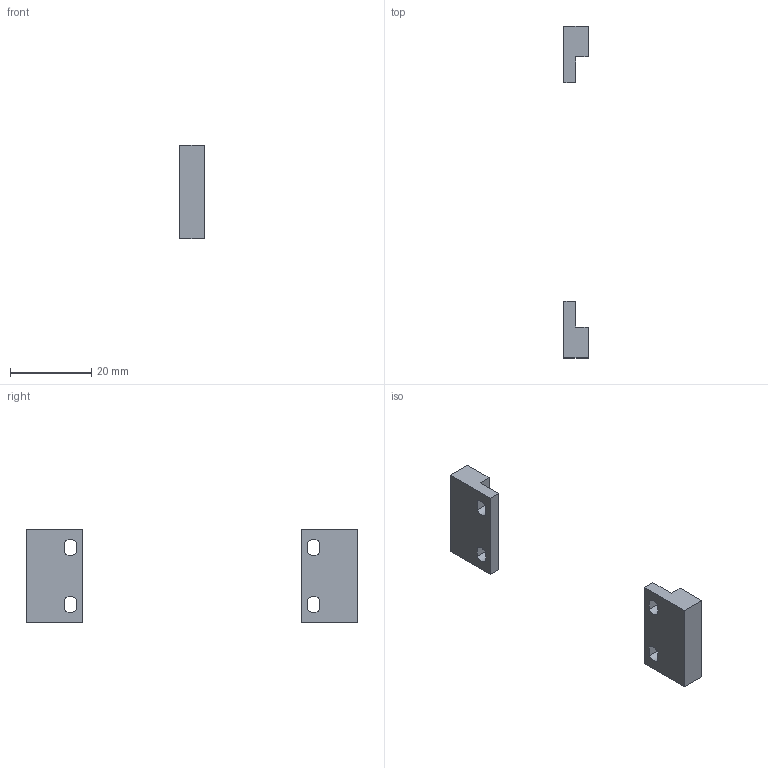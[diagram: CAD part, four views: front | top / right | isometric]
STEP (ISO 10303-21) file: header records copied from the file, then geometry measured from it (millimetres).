
FILE_DESCRIPTION(/* description */ (''),/* implementation_level */ '2;1');
FILE_NAME(/* name */ 'Y-2C79~1',/* time_stamp */ '2014-02-14T19:38:05+01:00',/* author */ (''),/* organization */ (''),/* preprocessor_version */ 'ST-DEVELOPER v14',/* originating_system */ '',/* authorisation */ '');
FILE_SCHEMA (('AUTOMOTIVE_DESIGN'));
Length unit declared in the file: millimetre
Products named in the file (1): Document
Bounding box: 6 x 81.8 x 23 mm (x, y, z)
Volume: 2826.6 mm3; surface area: 2150.7 mm2
Topology: 2 solids, 2 shells, 32 faces, 84 edges, 56 vertices
Faces by surface type: plane 16, bspline 16
Entity records: 2047 total; most frequent: CARTESIAN_POINT 910, B_SPLINE_CURVE_WITH_KNOTS 204, ORIENTED_EDGE 168, PCURVE 168, DEFINITIONAL_REPRESENTATION 168, SURFACE_CURVE 84, EDGE_CURVE 84, VERTEX_POINT 56
